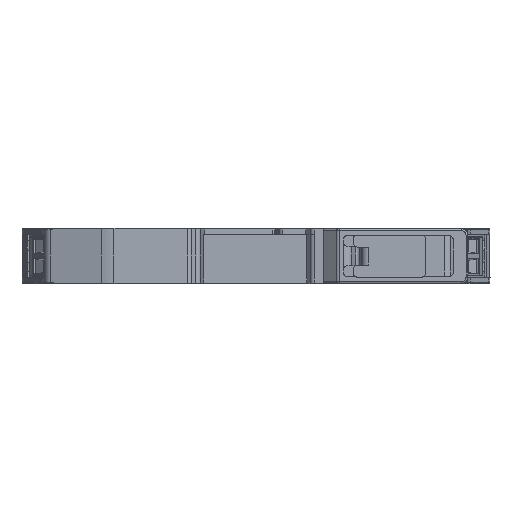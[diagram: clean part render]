
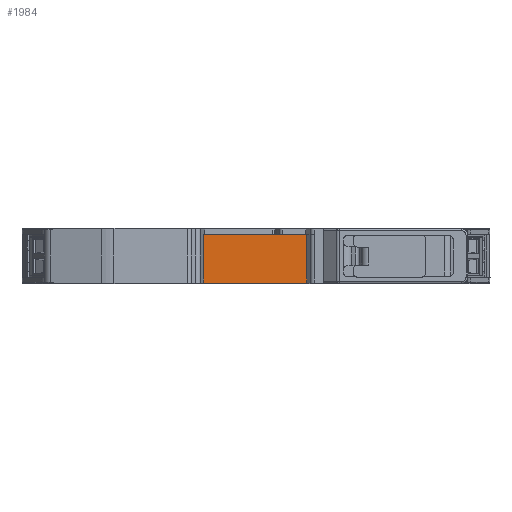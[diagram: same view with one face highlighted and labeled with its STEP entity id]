
A CAD part, left-side view. The second image highlights one B-rep face of the part: STEP entity #1984.
In plain terms, the highlighted planar face has unit normal (-1, 0, 0).
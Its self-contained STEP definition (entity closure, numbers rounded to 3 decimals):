
#1984=ADVANCED_FACE('',(#7970),#5038,.T.);
#5038=PLANE('',#64420);
#7970=FACE_OUTER_BOUND('',#11221,.T.);
#11221=EDGE_LOOP('',(#34274,#34275,#34276,#34277,#34278));
#15276=LINE('',#87021,#23165);
#15535=LINE('',#87735,#23424);
#15540=LINE('',#87846,#23429);
#15723=LINE('',#88560,#23612);
#15808=LINE('',#88786,#23697);
#23165=VECTOR('',#70250,1.);
#23424=VECTOR('',#70899,1.);
#23429=VECTOR('',#71024,1.);
#23612=VECTOR('',#71585,1.);
#23697=VECTOR('',#71782,1.);
#34274=ORIENTED_EDGE('',*,*,#55132,.T.);
#34275=ORIENTED_EDGE('',*,*,#55524,.T.);
#34276=ORIENTED_EDGE('',*,*,#55489,.T.);
#34277=ORIENTED_EDGE('',*,*,#55927,.T.);
#34278=ORIENTED_EDGE('',*,*,#55814,.T.);
#48632=VERTEX_POINT('',#87022);
#48633=VERTEX_POINT('',#87023);
#48891=VERTEX_POINT('',#87734);
#48892=VERTEX_POINT('',#87736);
#49081=VERTEX_POINT('',#88561);
#55132=EDGE_CURVE('',#48632,#48633,#15276,.T.);
#55489=EDGE_CURVE('',#48892,#48891,#15535,.T.);
#55524=EDGE_CURVE('',#48633,#48892,#15540,.T.);
#55814=EDGE_CURVE('',#49081,#48632,#15723,.T.);
#55927=EDGE_CURVE('',#48891,#49081,#15808,.T.);
#64420=AXIS2_PLACEMENT_3D('',#88787,#71783,#71784);
#70250=DIRECTION('',(0.,1.,0.));
#70899=DIRECTION('',(0.,0.,-1.));
#71024=DIRECTION('',(0.,1.,0.));
#71585=DIRECTION('',(0.,0.,1.));
#71782=DIRECTION('',(0.,-1.,0.));
#71783=DIRECTION('',(-1.,0.,0.));
#71784=DIRECTION('',(0.,-1.,0.));
#87021=CARTESIAN_POINT('',(5.,61.099,11.6));
#87022=CARTESIAN_POINT('',(5.,37.637,11.6));
#87023=CARTESIAN_POINT('',(5.,37.637,11.6));
#87734=CARTESIAN_POINT('',(5.,61.769,0.2));
#87735=CARTESIAN_POINT('',(5.,61.769,1.4));
#87736=CARTESIAN_POINT('',(5.,61.769,11.6));
#87846=CARTESIAN_POINT('',(5.,61.099,11.6));
#88560=CARTESIAN_POINT('',(5.,37.637,11.6));
#88561=CARTESIAN_POINT('',(5.,37.637,0.2));
#88786=CARTESIAN_POINT('',(5.,61.099,0.2));
#88787=CARTESIAN_POINT('',(5.,61.099,1.4));
